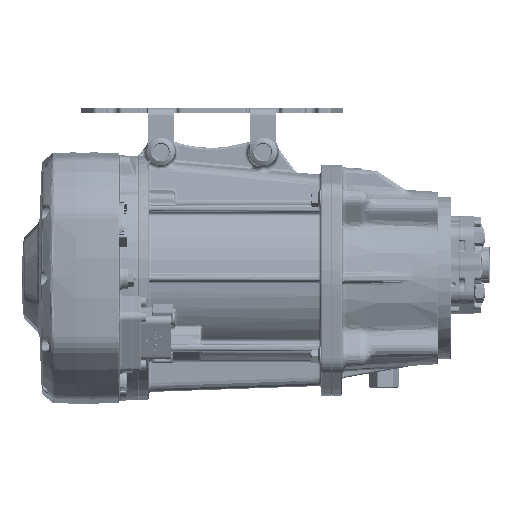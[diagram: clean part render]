
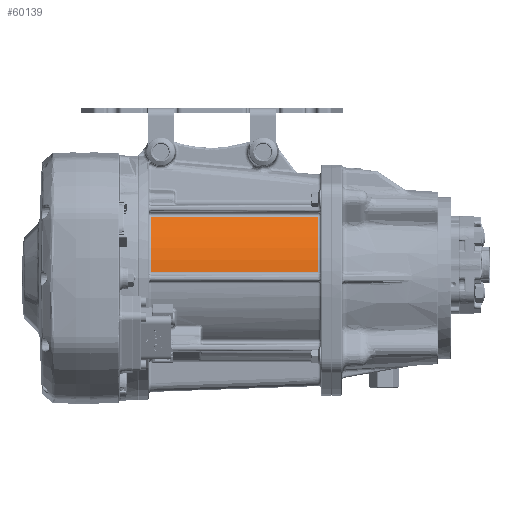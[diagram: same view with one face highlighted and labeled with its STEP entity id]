
A CAD part, left-side view. The second image highlights one B-rep face of the part: STEP entity #60139.
In plain terms, the highlighted cylindrical face has radius 60.833 mm (diameter 121.666 mm), a partial arc.
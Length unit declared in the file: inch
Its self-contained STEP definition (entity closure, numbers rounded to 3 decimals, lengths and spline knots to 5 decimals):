
#1905 = FACE_OUTER_BOUND ( 'NONE', #606986, .T. ) ;
#2023 = VERTEX_POINT ( 'NONE', #510316 ) ;
#51795 = DIRECTION ( 'NONE',  ( 0., 0., 1. ) ) ;
#60139 = ADVANCED_FACE ( 'NONE', ( #1905 ), #648022, .T. ) ;
#82772 = ORIENTED_EDGE ( 'NONE', *, *, #354665, .T. ) ;
#108155 = DIRECTION ( 'NONE',  ( 0., 1., 0. ) ) ;
#121042 = CARTESIAN_POINT ( 'NONE',  ( 0.16319, -5.55, 2.38943 ) ) ;
#128206 = EDGE_CURVE ( 'NONE', #271547, #185320, #301973, .T. ) ;
#144813 = CARTESIAN_POINT ( 'NONE',  ( 0., -5.17, 0. ) ) ;
#185320 = VERTEX_POINT ( 'NONE', #348744 ) ;
#189560 = AXIS2_PLACEMENT_3D ( 'NONE', #756903, #239685, #51795 ) ;
#219238 = VECTOR ( 'NONE', #108155, 39.37008 ) ;
#225381 = DIRECTION ( 'NONE',  ( 0., 1., 0. ) ) ;
#225627 = CARTESIAN_POINT ( 'NONE',  ( 1.75101, -5.55, 1.63401 ) ) ;
#232475 = ORIENTED_EDGE ( 'NONE', *, *, #128206, .T. ) ;
#239685 = DIRECTION ( 'NONE',  ( 0., -1., 0. ) ) ;
#240841 = DIRECTION ( 'NONE',  ( 0., 0., 1. ) ) ;
#265645 = CIRCLE ( 'NONE', #340502, 2.395 ) ;
#270040 = ORIENTED_EDGE ( 'NONE', *, *, #496354, .T. ) ;
#271547 = VERTEX_POINT ( 'NONE', #620929 ) ;
#272124 = AXIS2_PLACEMENT_3D ( 'NONE', #342861, #225381, #240841 ) ;
#273006 = ORIENTED_EDGE ( 'NONE', *, *, #661854, .T. ) ;
#301182 = VECTOR ( 'NONE', #712293, 39.37008 ) ;
#301973 = CIRCLE ( 'NONE', #189560, 2.395 ) ;
#340502 = AXIS2_PLACEMENT_3D ( 'NONE', #144813, #446108, #387500 ) ;
#342861 = CARTESIAN_POINT ( 'NONE',  ( 0., -5.55, 0. ) ) ;
#348744 = CARTESIAN_POINT ( 'NONE',  ( 0.16319, -0.38, 2.38943 ) ) ;
#354665 = EDGE_CURVE ( 'NONE', #542400, #2023, #265645, .T. ) ;
#355983 = LINE ( 'NONE', #121042, #301182 ) ;
#387500 = DIRECTION ( 'NONE',  ( 0., 0., -1. ) ) ;
#446108 = DIRECTION ( 'NONE',  ( 0., 1., 0. ) ) ;
#496354 = EDGE_CURVE ( 'NONE', #2023, #271547, #707077, .T. ) ;
#510316 = CARTESIAN_POINT ( 'NONE',  ( 1.75101, -5.17, 1.63401 ) ) ;
#542400 = VERTEX_POINT ( 'NONE', #657593 ) ;
#606986 = EDGE_LOOP ( 'NONE', ( #270040, #232475, #273006, #82772 ) ) ;
#620929 = CARTESIAN_POINT ( 'NONE',  ( 1.75101, -0.38, 1.63401 ) ) ;
#648022 = CYLINDRICAL_SURFACE ( 'NONE', #272124, 2.395 ) ;
#657593 = CARTESIAN_POINT ( 'NONE',  ( 0.16319, -5.17, 2.38943 ) ) ;
#661854 = EDGE_CURVE ( 'NONE', #185320, #542400, #355983, .T. ) ;
#707077 = LINE ( 'NONE', #225627, #219238 ) ;
#712293 = DIRECTION ( 'NONE',  ( 0., -1., 0. ) ) ;
#756903 = CARTESIAN_POINT ( 'NONE',  ( 0., -0.38, 0. ) ) ;
